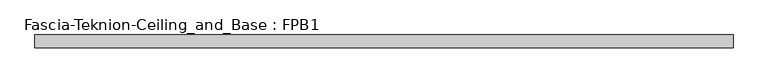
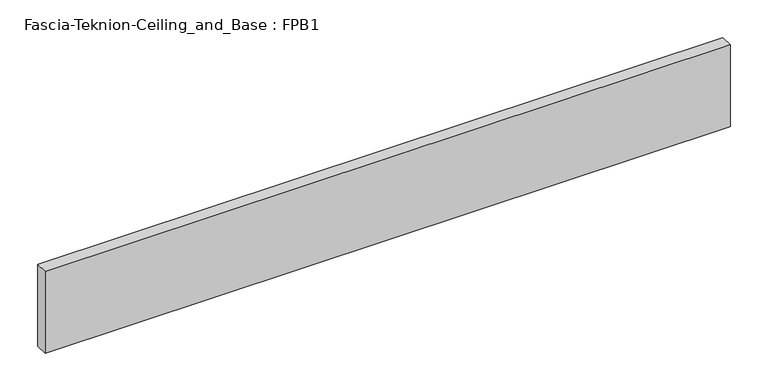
"""IFC4 building model written with IfcOpenShell, lengths in millimetres: proxy geometry, Fascia-Teknion-Ceiling_and_Base : FPB1."""

from ifc_helpers import new_model, si_unit, origin, origin_with_axes, place, context, project, spatial, polyline, outline, extrude, source, transform, mapped, element, save


def fascia_teknion_ceiling_and_base_fpb1_8b8bf328(model_context):
    return source(origin(), model_context, "Body", "SweptSolid", [
        extrude(outline(polyline([(523.2300781, 0.0), (-523.2300781, 0.0), (-523.2300781, 19.05), (523.2300781, 19.05), (523.2300781, 0.0)])), origin_with_axes(), (0.0, 0.0, 1.0), 132.08),
    ])


if __name__ == "__main__":
    model = new_model("IFC4")
    model_context = context("Model", 3, world=origin())
    ifc_project = project(units=[si_unit("LENGTHUNIT", "METRE", prefix="MILLI")], contexts=[model_context])
    site = spatial("IfcSite", under=ifc_project)
    building = spatial("IfcBuilding", under=site)
    placement = place(None, origin())
    fascia_teknion_ceiling_and_base_fpb1_shape = fascia_teknion_ceiling_and_base_fpb1_8b8bf328(model_context)
    element("IfcBuildingElementProxy", 1, Name="Fascia-Teknion-Ceiling_and_Base : FPB1", ObjectType="Fascia-Teknion-Ceiling_and_Base : FPB1", at=placement, inside=building, context=model_context, shape_type="MappedRepresentation", body=[
        mapped(fascia_teknion_ceiling_and_base_fpb1_shape, transform((0.0, 0.0, 0.0), x_axis=(1.0, 0.0, 0.0), y_axis=(0.0, 1.0, 0.0), z_axis=(0.0, 0.0, 1.0))),
    ])
    save(model, "model.ifc")
